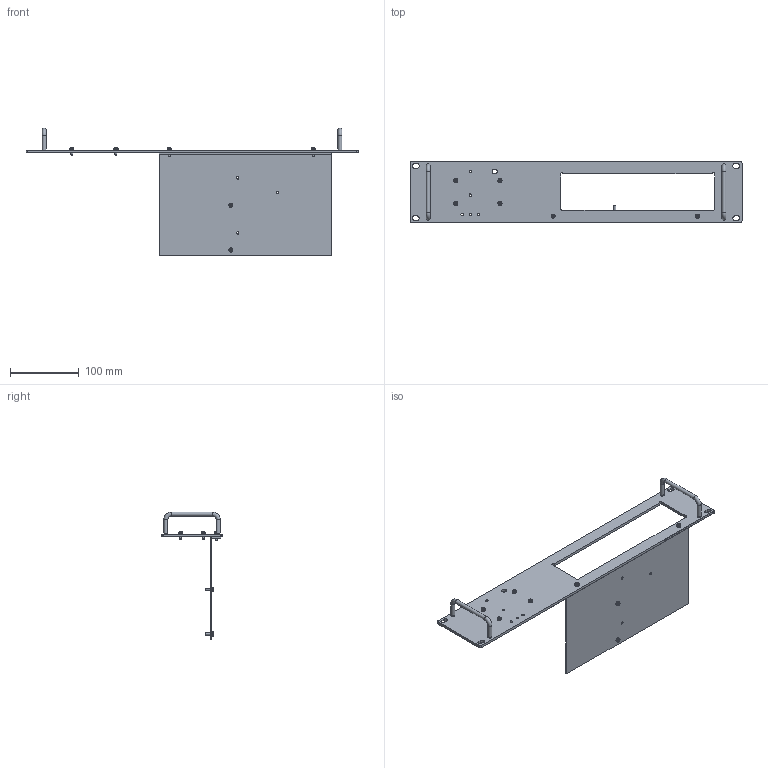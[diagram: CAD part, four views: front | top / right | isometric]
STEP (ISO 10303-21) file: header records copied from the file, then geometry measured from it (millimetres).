
FILE_DESCRIPTION(/* description */ (''),/* implementation_level */ '2;1');
FILE_NAME(/* name */ 'A:\Data\ES300\Option\RA19 ES300-PSC488\step file\RA19-1 ES-PSC488.stp',/* time_stamp */ '2020-12-22T09:31:04+01:00',/* author */ ('Delta'),/* organization */ (''),/* preprocessor_version */ 'ST-DEVELOPER v17.2',/* originating_system */ 'Autodesk Inventor 2019',/* authorisation */ '');
FILE_SCHEMA (('AUTOMOTIVE_DESIGN { 1 0 10303 214 3 1 1 }'));
Length unit declared in the file: millimetre
Products named in the file (1): RA19-1 ES-PSC488_Shrinkwrap_1
Bounding box: 482.5 x 88.1 x 186 mm (x, y, z)
Volume: 206550.2 mm3; surface area: 156487.1 mm2
Topology: 1 solids, 1 shells, 489 faces, 1199 edges, 746 vertices
Faces by surface type: plane 297, cylinder 102, cone 60, torus 30
Full cylindrical faces by diameter (mm): 3 x8, 3.2 x6, 3.5 x14, 4 x8, 4.2 x4, 4.5 x4, 6 x22, 7 x1
Entity records: 14897 total; most frequent: CARTESIAN_POINT 3117, ORIENTED_EDGE 2374, DIRECTION 2359, EDGE_CURVE 1187, AXIS2_PLACEMENT_3D 908, VERTEX_POINT 746, EDGE_LOOP 569, LINE 543
